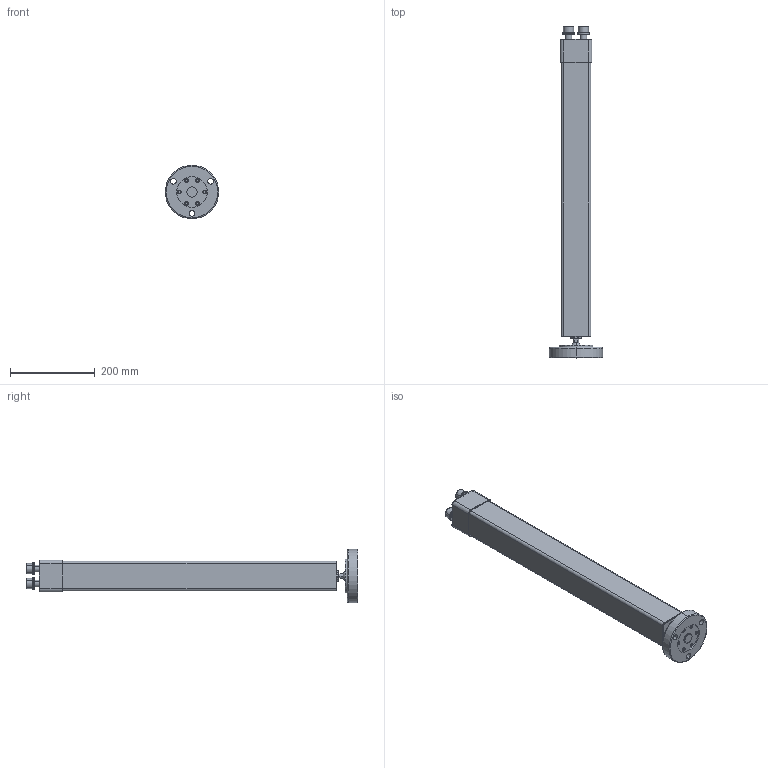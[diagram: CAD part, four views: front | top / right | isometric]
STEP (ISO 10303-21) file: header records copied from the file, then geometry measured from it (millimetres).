
FILE_DESCRIPTION (( 'STEP AP203' ), '1' );
FILE_NAME ('160875.X_750.step', '2014-08-11T17:01:10', ( 'User' ), ( '' ), 'SwSTEP 2.0', 'SolidWorks 2014', '' );
FILE_SCHEMA (( 'CONFIG_CONTROL_DESIGN' ));
Length unit declared in the file: millimetre
Products named in the file (11): halter^160868 Bodenverankerung_Foto_160875.X_750; Spindel^160868 Bodenverankerung_Foto_160875.X_750_Einfach; M8x30 DIN 7991_Produktbild; Sechskantmutter M16x1,5 Flach DIN ISO 8675_Detailliert; Fußrohr^160875.X_750; 160868 Bodenverankerung_Foto^160875.X_750_Detailliert; 160873 Manschette_Foto_V1 Kreis; 160875.X_750; M16x50 DIN 912_Detailliert; Ring DIN 127 A16; Bodenplatte^160868 Bodenverankerung_Foto_160875.X_750
Assembly tree (18 placements, depth 3):
  160875.X_750
    Fußrohr^160875.X_750
    160873 Manschette_Foto_V1 Kreis
    M16x50 DIN 912_Detailliert  x2
    Ring DIN 127 A16  x2
    160868 Bodenverankerung_Foto^160875.X_750_Detailliert
      Bodenplatte^160868 Bodenverankerung_Foto_160875.X_750
      halter^160868 Bodenverankerung_Foto_160875.X_750  x2
      Spindel^160868 Bodenverankerung_Foto_160875.X_750_Einfach
      M8x30 DIN 7991_Produktbild  x6
      Sechskantmutter M16x1,5 Flach DIN ISO 8675_Detailliert
Bounding box: 126 x 783.5 x 126 mm (x, y, z)
Volume: 1138715.1 mm3; surface area: 491980.2 mm2
Topology: 17 solids, 23 shells, 709 faces, 1731 edges, 1083 vertices
Faces by surface type: cylinder 312, plane 147, cone 132, torus 70, bspline 42, sphere 6
Entity records: 17420 total; most frequent: CARTESIAN_POINT 7992, DIRECTION 1808, ORIENTED_EDGE 1620, EDGE_CURVE 810, AXIS2_PLACEMENT_3D 750, VERTEX_POINT 492, EDGE_LOOP 402, CIRCLE 383
